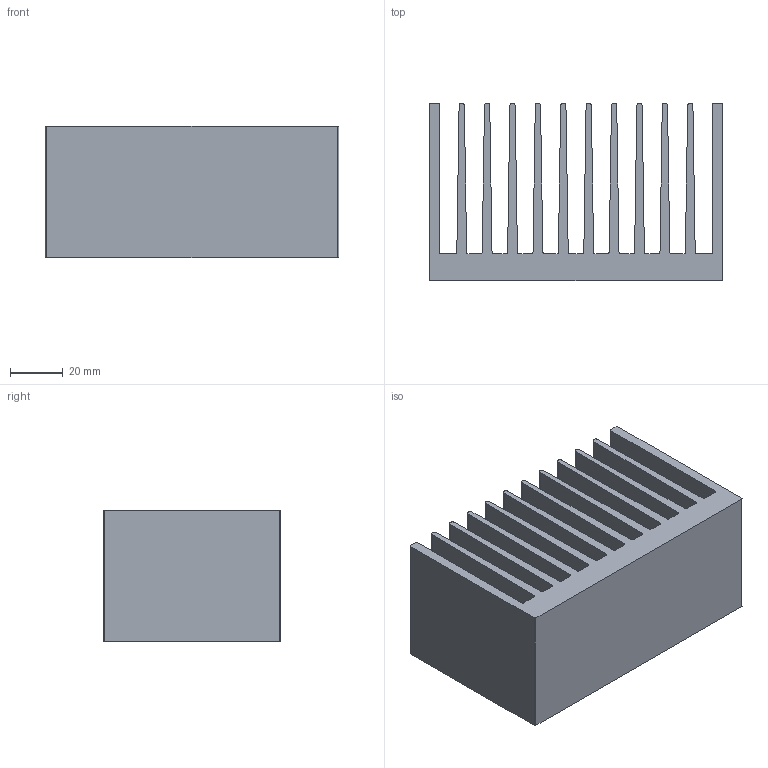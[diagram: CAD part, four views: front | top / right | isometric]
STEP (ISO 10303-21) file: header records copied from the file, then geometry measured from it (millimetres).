
FILE_DESCRIPTION (( 'STEP AP203' ), '1' );
FILE_NAME ('PR 211-50.step', '2002-10-21T08:23:55', ( 'Wolfgang Müller' ), ( 'DPS' ), 'SwSTEP 2.0', 'SolidWorks 2002264', '' );
FILE_SCHEMA (( 'CONFIG_CONTROL_DESIGN' ));
Length unit declared in the file: millimetre
Products named in the file (1): PR 211-50
Bounding box: 111.5 x 67.5 x 50 mm (x, y, z)
Volume: 160489.8 mm3; surface area: 85649.4 mm2
Topology: 1 solids, 1 shells, 78 faces, 228 edges, 152 vertices
Faces by surface type: plane 40, cylinder 38
Entity records: 2685 total; most frequent: DIRECTION 462, CARTESIAN_POINT 459, ORIENTED_EDGE 456, EDGE_CURVE 228, AXIS2_PLACEMENT_3D 155, VERTEX_POINT 152, LINE 152, VECTOR 152
